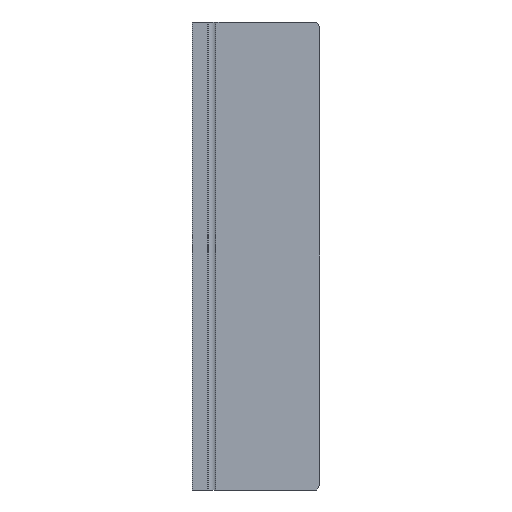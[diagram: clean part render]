
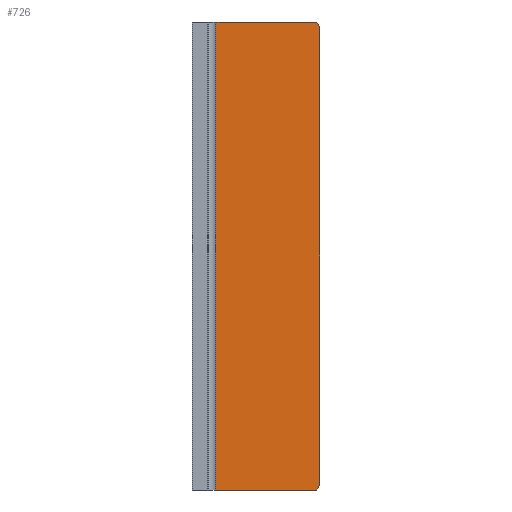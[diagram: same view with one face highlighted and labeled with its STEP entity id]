
A CAD part, left-side view. The second image highlights one B-rep face of the part: STEP entity #726.
In plain terms, the highlighted planar face has unit normal (-1, 0, 0).
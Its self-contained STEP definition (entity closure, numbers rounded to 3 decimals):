
#34 = VERTEX_POINT ( 'NONE', #383 ) ;
#48 = CARTESIAN_POINT ( 'NONE',  ( -20.5, -22., 49.7 ) ) ;
#112 = LINE ( 'NONE', #1824, #1639 ) ;
#132 = CARTESIAN_POINT ( 'NONE',  ( -20.5, -22., -49.7 ) ) ;
#165 = EDGE_LOOP ( 'NONE', ( #1368, #1547, #517, #1440, #1119, #295 ) ) ;
#171 = CARTESIAN_POINT ( 'NONE',  ( -20.5, -22., -48.7 ) ) ;
#179 = AXIS2_PLACEMENT_3D ( 'NONE', #703, #877, #1584 ) ;
#190 = DIRECTION ( 'NONE',  ( 0., 0., -1. ) ) ;
#197 = DIRECTION ( 'NONE',  ( 0., -1., 0. ) ) ;
#219 = CARTESIAN_POINT ( 'NONE',  ( -20.5, -22., -48.7 ) ) ;
#229 = VERTEX_POINT ( 'NONE', #1783 ) ;
#262 = EDGE_CURVE ( 'NONE', #1067, #795, #354, .T. ) ;
#295 = ORIENTED_EDGE ( 'NONE', *, *, #262, .T. ) ;
#354 = LINE ( 'NONE', #219, #543 ) ;
#363 = VECTOR ( 'NONE', #190, 1000. ) ;
#383 = CARTESIAN_POINT ( 'NONE',  ( -20.5, 0., -49.7 ) ) ;
#387 = EDGE_CURVE ( 'NONE', #1266, #1088, #112, .T. ) ;
#416 = CARTESIAN_POINT ( 'NONE',  ( -20.5, -21.423, -49.7 ) ) ;
#454 = PLANE ( 'NONE',  #179 ) ;
#504 = DIRECTION ( 'NONE',  ( 0., 0., -1. ) ) ;
#517 = ORIENTED_EDGE ( 'NONE', *, *, #1290, .F. ) ;
#543 = VECTOR ( 'NONE', #790, 1000. ) ;
#661 = EDGE_CURVE ( 'NONE', #34, #1067, #840, .T. ) ;
#703 = CARTESIAN_POINT ( 'NONE',  ( -20.5, -22., 49.7 ) ) ;
#711 = FACE_OUTER_BOUND ( 'NONE', #165, .T. ) ;
#726 = ADVANCED_FACE ( 'NONE', ( #711 ), #454, .F. ) ;
#762 = LINE ( 'NONE', #783, #1493 ) ;
#783 = CARTESIAN_POINT ( 'NONE',  ( -20.5, -22., 49.7 ) ) ;
#790 = DIRECTION ( 'NONE',  ( 0., -0.5, 0.866 ) ) ;
#795 = VERTEX_POINT ( 'NONE', #171 ) ;
#840 = LINE ( 'NONE', #132, #1372 ) ;
#877 = DIRECTION ( 'NONE',  ( 1., 0., 0. ) ) ;
#881 = EDGE_CURVE ( 'NONE', #1266, #795, #916, .T. ) ;
#884 = CARTESIAN_POINT ( 'NONE',  ( -20.5, -21.423, 49.7 ) ) ;
#916 = LINE ( 'NONE', #48, #363 ) ;
#1067 = VERTEX_POINT ( 'NONE', #416 ) ;
#1088 = VERTEX_POINT ( 'NONE', #884 ) ;
#1117 = DIRECTION ( 'NONE',  ( 0., 0.5, 0.866 ) ) ;
#1119 = ORIENTED_EDGE ( 'NONE', *, *, #661, .T. ) ;
#1155 = DIRECTION ( 'NONE',  ( 0., -1., 0. ) ) ;
#1266 = VERTEX_POINT ( 'NONE', #1471 ) ;
#1290 = EDGE_CURVE ( 'NONE', #229, #1088, #762, .T. ) ;
#1368 = ORIENTED_EDGE ( 'NONE', *, *, #881, .F. ) ;
#1372 = VECTOR ( 'NONE', #1155, 1000. ) ;
#1432 = VECTOR ( 'NONE', #504, 1000. ) ;
#1440 = ORIENTED_EDGE ( 'NONE', *, *, #1455, .T. ) ;
#1455 = EDGE_CURVE ( 'NONE', #229, #34, #1785, .T. ) ;
#1471 = CARTESIAN_POINT ( 'NONE',  ( -20.5, -22., 48.7 ) ) ;
#1493 = VECTOR ( 'NONE', #197, 1000. ) ;
#1547 = ORIENTED_EDGE ( 'NONE', *, *, #387, .T. ) ;
#1584 = DIRECTION ( 'NONE',  ( 0., 1., 0. ) ) ;
#1639 = VECTOR ( 'NONE', #1117, 1000. ) ;
#1647 = CARTESIAN_POINT ( 'NONE',  ( -20.5, 0., 49.7 ) ) ;
#1783 = CARTESIAN_POINT ( 'NONE',  ( -20.5, 0., 49.7 ) ) ;
#1785 = LINE ( 'NONE', #1647, #1432 ) ;
#1824 = CARTESIAN_POINT ( 'NONE',  ( -20.5, -21.423, 49.7 ) ) ;
